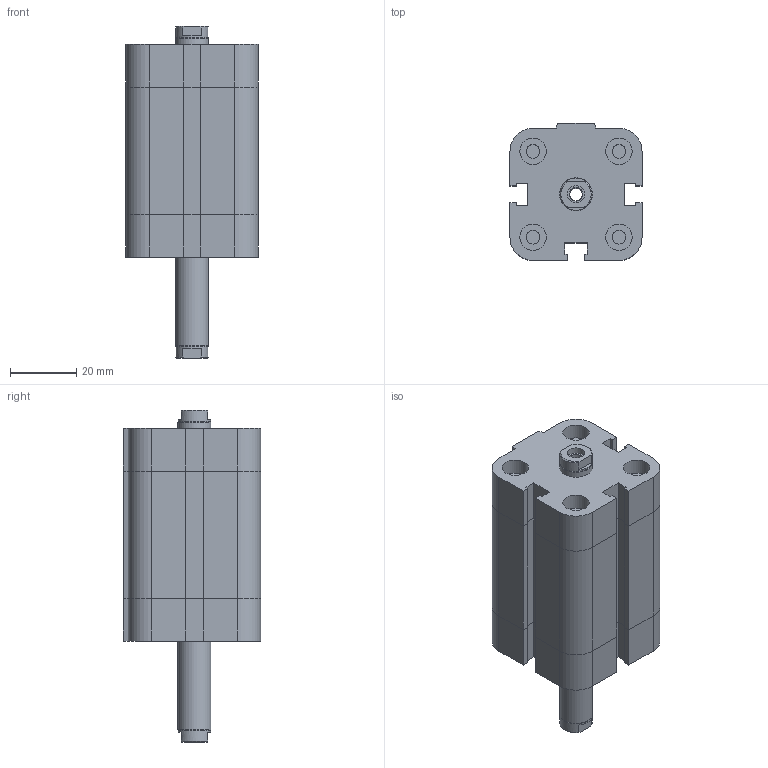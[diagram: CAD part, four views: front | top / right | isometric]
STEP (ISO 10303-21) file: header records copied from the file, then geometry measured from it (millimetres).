
FILE_DESCRIPTION((''),'2;1');
FILE_NAME('I:\Area Tecnica\Disegni\VARIE-3D\Componenti\EUROPE\15##_###_####_06_#\1581_25_0025_06_1.iam.stp','2009-04-20T15:09:08',(''),(''),'Autodesk Inventor 2009','Autodesk Inventor 2009','');
FILE_SCHEMA(('AUTOMOTIVE_DESIGN { 1 0 10303 214 1 1 1 1 }'));
Length unit declared in the file: millimetre
Products named in the file (3): 1581_25_0025_06_1; 1581_25_0025_03_1_C; 1561_25_0025_06_1_S
Assembly tree (2 placements, depth 2):
  1581_25_0025_06_1
    1581_25_0025_03_1_C
    1561_25_0025_06_1_S
Bounding box: 40 x 41.5 x 100.5 mm (x, y, z)
Volume: 93064 mm3; surface area: 24376.9 mm2
Topology: 2 solids, 2 shells, 175 faces, 382 edges, 233 vertices
Faces by surface type: plane 114, bspline 30, cylinder 25, cone 6
Full cylindrical faces by diameter (mm): 4.134 x5, 5.2 x1, 8 x4, 9.8 x2, 10 x1
Entity records: 4805 total; most frequent: CARTESIAN_POINT 1042, DIRECTION 712, ORIENTED_EDGE 680, EDGE_CURVE 340, VECTOR 252, LINE 252, AXIS2_PLACEMENT_3D 230, EDGE_LOOP 230
